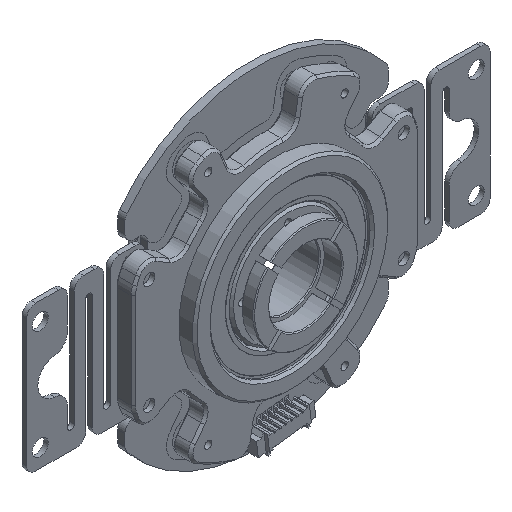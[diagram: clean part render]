
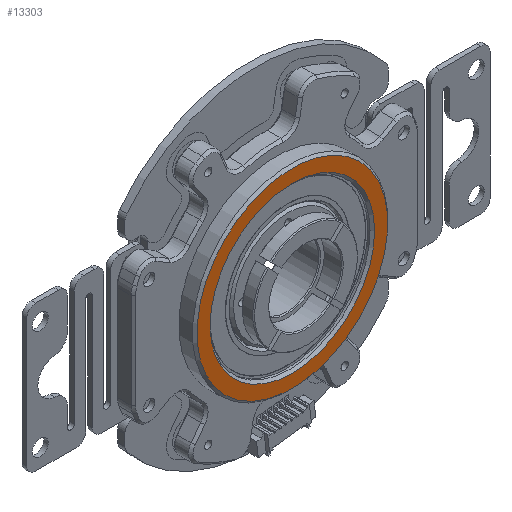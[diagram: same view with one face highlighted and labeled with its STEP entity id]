
A CAD part, isometric view. The second image highlights one B-rep face of the part: STEP entity #13303.
In plain terms, the highlighted planar face has unit normal (0, -1, 0).
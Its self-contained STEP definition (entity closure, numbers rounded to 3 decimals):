
#2662=PLANE('',#41139);
#13303=ADVANCED_FACE('',(#15897,#15898),#2662,.T.);
#15897=FACE_BOUND('',#16716,.T.);
#15898=FACE_BOUND('',#16717,.T.);
#16716=EDGE_LOOP('',(#20242));
#16717=EDGE_LOOP('',(#20243));
#20242=ORIENTED_EDGE('',*,*,#35245,.T.);
#20243=ORIENTED_EDGE('',*,*,#35247,.T.);
#31383=VERTEX_POINT('',#56696);
#31385=VERTEX_POINT('',#56702);
#35245=EDGE_CURVE('',#31383,#31383,#40101,.T.);
#35247=EDGE_CURVE('',#31385,#31385,#40103,.T.);
#40101=CIRCLE('',#41134,18.1);
#40103=CIRCLE('',#41138,21.);
#41134=AXIS2_PLACEMENT_3D('',#56695,#45362,#45363);
#41138=AXIS2_PLACEMENT_3D('',#56701,#45370,#45371);
#41139=AXIS2_PLACEMENT_3D('',#56703,#45372,#45373);
#45362=DIRECTION('',(0.,1.,0.));
#45363=DIRECTION('',(0.,0.,1.));
#45370=DIRECTION('',(0.,-1.,0.));
#45371=DIRECTION('',(0.707,0.,-0.707));
#45372=DIRECTION('',(0.,-1.,0.));
#45373=DIRECTION('',(-0.707,0.,0.707));
#56695=CARTESIAN_POINT('',(0.,-7.5,0.));
#56696=CARTESIAN_POINT('',(0.,-7.5,18.1));
#56701=CARTESIAN_POINT('',(0.,-7.5,0.));
#56702=CARTESIAN_POINT('',(14.849,-7.5,-14.849));
#56703=CARTESIAN_POINT('',(0.,-7.5,0.));
